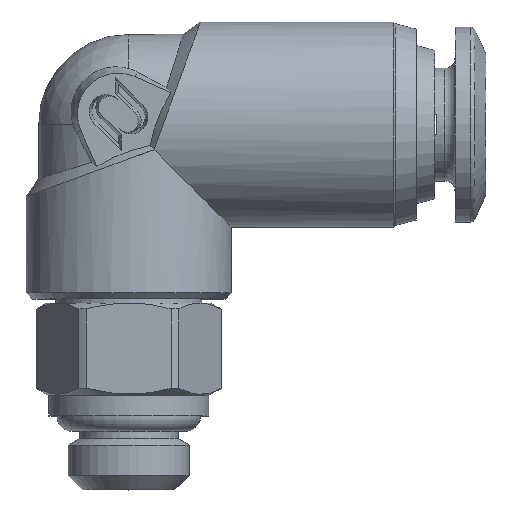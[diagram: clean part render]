
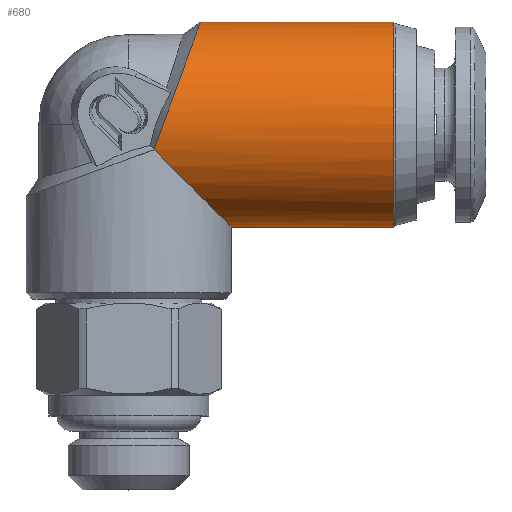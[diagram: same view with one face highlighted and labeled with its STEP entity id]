
A CAD part, top view. The second image highlights one B-rep face of the part: STEP entity #680.
In plain terms, the highlighted cylindrical face has radius 5 mm (diameter 10 mm), a full revolution.
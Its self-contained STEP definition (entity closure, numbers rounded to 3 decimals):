
#26 = VERTEX_POINT ( 'NONE', #3959 ) ;
#79 = CARTESIAN_POINT ( 'NONE',  ( 2.377, 1.913, -4.619 ) ) ;
#95 = CARTESIAN_POINT ( 'NONE',  ( 3.5, 5., 0.654 ) ) ;
#121 = CARTESIAN_POINT ( 'NONE',  ( 1.68, 0., 5. ) ) ;
#127 = CARTESIAN_POINT ( 'NONE',  ( 2.156, 1.309, -4.87 ) ) ;
#283 = DIRECTION ( 'NONE',  ( 0., 1., 0. ) ) ;
#356 = ORIENTED_EDGE ( 'NONE', *, *, #2048, .F. ) ;
#411 = B_SPLINE_CURVE_WITH_KNOTS ( 'NONE', 3,
 ( #3466, #480, #3859, #1601 ),
 .UNSPECIFIED., .F., .F.,
 ( 4, 4 ),
 ( 0., 1. ),
 .UNSPECIFIED. ) ;
#437 = B_SPLINE_CURVE_WITH_KNOTS ( 'NONE', 3,
 ( #4826, #1842, #516, #3138 ),
 .UNSPECIFIED., .F., .F.,
 ( 4, 4 ),
 ( 0., 1. ),
 .UNSPECIFIED. ) ;
#461 = CARTESIAN_POINT ( 'NONE',  ( 3.5, 5., 0. ) ) ;
#480 = CARTESIAN_POINT ( 'NONE',  ( 3.5, 5., -0.654 ) ) ;
#493 = CARTESIAN_POINT ( 'NONE',  ( 1.68, 0., -5. ) ) ;
#516 = CARTESIAN_POINT ( 'NONE',  ( 3.27, 4.369, 2.518 ) ) ;
#526 = VERTEX_POINT ( 'NONE', #1684 ) ;
#534 = CARTESIAN_POINT ( 'NONE',  ( 2.967, 3.536, -3.536 ) ) ;
#536 = CARTESIAN_POINT ( 'NONE',  ( 2.156, 1.309, 4.87 ) ) ;
#558 = CARTESIAN_POINT ( 'NONE',  ( 1.68, 0., -5. ) ) ;
#598 =( BOUNDED_CURVE ( )  B_SPLINE_CURVE ( 3, ( #1449, #1076, #4814, #2593 ),
 .UNSPECIFIED., .F., .F. ) 
 B_SPLINE_CURVE_WITH_KNOTS ( ( 4, 4 ),
 ( 4.463, 4.712 ),
 .UNSPECIFIED. ) 
 CURVE ( )  GEOMETRIC_REPRESENTATION_ITEM ( )  RATIONAL_B_SPLINE_CURVE ( ( 1., 0.995, 0.995, 1. ) ) 
 REPRESENTATION_ITEM ( '' )  );
#628 = CARTESIAN_POINT ( 'NONE',  ( 2.377, 1.913, 4.619 ) ) ;
#680 = ADVANCED_FACE ( 'NONE', ( #704, #1456 ), #2992, .T. ) ;
#704 = FACE_OUTER_BOUND ( 'NONE', #3228, .T. ) ;
#731 = VERTEX_POINT ( 'NONE', #3091 ) ;
#732 = EDGE_CURVE ( 'NONE', #526, #3440, #2053, .T. ) ;
#737 = ORIENTED_EDGE ( 'NONE', *, *, #3907, .F. ) ;
#819 = CARTESIAN_POINT ( 'NONE',  ( 2.967, 3.536, 3.536 ) ) ;
#1003 = CARTESIAN_POINT ( 'NONE',  ( 1.232, -1.232, 4.846 ) ) ;
#1004 = DIRECTION ( 'NONE',  ( 1., 0., 0. ) ) ;
#1051 = CARTESIAN_POINT ( 'NONE',  ( 1.379, -0.829, -4.948 ) ) ;
#1076 = CARTESIAN_POINT ( 'NONE',  ( 1.379, -0.829, 4.948 ) ) ;
#1105 = EDGE_CURVE ( 'NONE', #2974, #4819, #2787, .T. ) ;
#1433 = VERTEX_POINT ( 'NONE', #121 ) ;
#1437 = CARTESIAN_POINT ( 'NONE',  ( 2.377, 1.913, 4.619 ) ) ;
#1449 = CARTESIAN_POINT ( 'NONE',  ( 1.232, -1.232, 4.846 ) ) ;
#1456 = FACE_OUTER_BOUND ( 'NONE', #4003, .T. ) ;
#1470 = CARTESIAN_POINT ( 'NONE',  ( 3.361, 4.619, -1.913 ) ) ;
#1512 = VERTEX_POINT ( 'NONE', #558 ) ;
#1593 = VERTEX_POINT ( 'NONE', #1733 ) ;
#1601 = CARTESIAN_POINT ( 'NONE',  ( 3.361, 4.619, -1.913 ) ) ;
#1642 = ORIENTED_EDGE ( 'NONE', *, *, #4582, .F. ) ;
#1684 = CARTESIAN_POINT ( 'NONE',  ( 3.361, 4.619, 1.913 ) ) ;
#1733 = CARTESIAN_POINT ( 'NONE',  ( 2.967, 3.536, -3.536 ) ) ;
#1743 = CARTESIAN_POINT ( 'NONE',  ( 7.524, -7.524, -3.246 ) ) ;
#1800 = VERTEX_POINT ( 'NONE', #1470 ) ;
#1842 = CARTESIAN_POINT ( 'NONE',  ( 3.135, 3.998, 3.073 ) ) ;
#1890 = ORIENTED_EDGE ( 'NONE', *, *, #1923, .T. ) ;
#1923 = EDGE_CURVE ( 'NONE', #731, #731, #3356, .T. ) ;
#1943 = CARTESIAN_POINT ( 'NONE',  ( 2.967, 3.536, -3.536 ) ) ;
#1945 = CARTESIAN_POINT ( 'NONE',  ( 12.918, 0., 0. ) ) ;
#1961 = CARTESIAN_POINT ( 'NONE',  ( 3.453, 4.87, 1.309 ) ) ;
#2031 = CARTESIAN_POINT ( 'NONE',  ( 3.361, 4.619, -1.913 ) ) ;
#2048 = EDGE_CURVE ( 'NONE', #26, #1512, #4361, .T. ) ;
#2053 = B_SPLINE_CURVE_WITH_KNOTS ( 'NONE', 3,
 ( #4172, #1961, #95, #2719 ),
 .UNSPECIFIED., .F., .F.,
 ( 4, 4 ),
 ( 0., 1. ),
 .UNSPECIFIED. ) ;
#2114 = CARTESIAN_POINT ( 'NONE',  ( 15., 0., 0. ) ) ;
#2323 = CARTESIAN_POINT ( 'NONE',  ( 2.597, 2.518, -4.369 ) ) ;
#2324 = DIRECTION ( 'NONE',  ( 0., -1., 0. ) ) ;
#2517 = EDGE_CURVE ( 'NONE', #4819, #526, #437, .T. ) ;
#2518 = B_SPLINE_CURVE_WITH_KNOTS ( 'NONE', 3,
 ( #4242, #4258, #536, #3156 ),
 .UNSPECIFIED., .F., .F.,
 ( 4, 4 ),
 ( 0., 1. ),
 .UNSPECIFIED. ) ;
#2593 = CARTESIAN_POINT ( 'NONE',  ( 1.68, 0., 5. ) ) ;
#2713 =( BOUNDED_CURVE ( )  B_SPLINE_CURVE ( 3, ( #1003, #3238, #1743, #4362 ),
 .UNSPECIFIED., .F., .F. ) 
 B_SPLINE_CURVE_WITH_KNOTS ( ( 4, 4 ),
 ( 4.961, 7.605 ),
 .UNSPECIFIED. ) 
 CURVE ( )  GEOMETRIC_REPRESENTATION_ITEM ( )  RATIONAL_B_SPLINE_CURVE ( ( 1., 0.498, 0.498, 1. ) ) 
 REPRESENTATION_ITEM ( '' )  );
#2719 = CARTESIAN_POINT ( 'NONE',  ( 3.5, 5., 0. ) ) ;
#2750 = CARTESIAN_POINT ( 'NONE',  ( 1.918, 0.654, -5. ) ) ;
#2785 = ORIENTED_EDGE ( 'NONE', *, *, #4402, .T. ) ;
#2787 = B_SPLINE_CURVE_WITH_KNOTS ( 'NONE', 3,
 ( #1437, #3992, #2945, #4051 ),
 .UNSPECIFIED., .F., .F.,
 ( 4, 4 ),
 ( 0., 1. ),
 .UNSPECIFIED. ) ;
#2795 = CARTESIAN_POINT ( 'NONE',  ( 3.135, 3.998, -3.073 ) ) ;
#2884 = B_SPLINE_CURVE_WITH_KNOTS ( 'NONE', 3,
 ( #1943, #4552, #2323, #79 ),
 .UNSPECIFIED., .F., .F.,
 ( 4, 4 ),
 ( 0., 1. ),
 .UNSPECIFIED. ) ;
#2930 = CARTESIAN_POINT ( 'NONE',  ( 1.68, 0., -5. ) ) ;
#2945 = CARTESIAN_POINT ( 'NONE',  ( 2.799, 3.073, 3.998 ) ) ;
#2974 = VERTEX_POINT ( 'NONE', #628 ) ;
#2988 = ORIENTED_EDGE ( 'NONE', *, *, #3174, .F. ) ;
#2992 = CYLINDRICAL_SURFACE ( 'NONE', #4667, 5. ) ;
#3065 = B_SPLINE_CURVE_WITH_KNOTS ( 'NONE', 3,
 ( #2031, #3881, #2795, #534 ),
 .UNSPECIFIED., .F., .F.,
 ( 4, 4 ),
 ( 0., 1. ),
 .UNSPECIFIED. ) ;
#3085 = AXIS2_PLACEMENT_3D ( 'NONE', #1945, #4554, #2324 ) ;
#3091 = CARTESIAN_POINT ( 'NONE',  ( 12.918, -5., 0. ) ) ;
#3120 = VERTEX_POINT ( 'NONE', #4516 ) ;
#3138 = CARTESIAN_POINT ( 'NONE',  ( 3.361, 4.619, 1.913 ) ) ;
#3156 = CARTESIAN_POINT ( 'NONE',  ( 2.377, 1.913, 4.619 ) ) ;
#3174 = EDGE_CURVE ( 'NONE', #1593, #26, #2884, .T. ) ;
#3202 = ORIENTED_EDGE ( 'NONE', *, *, #2517, .F. ) ;
#3228 = EDGE_LOOP ( 'NONE', ( #1642, #2785, #737, #356, #2988, #3499, #4636, #4677, #3202, #3645, #3725 ) ) ;
#3238 = CARTESIAN_POINT ( 'NONE',  ( 7.524, -7.524, 3.246 ) ) ;
#3291 = VERTEX_POINT ( 'NONE', #3884 ) ;
#3296 = CARTESIAN_POINT ( 'NONE',  ( 1.529, -0.416, -5. ) ) ;
#3319 = EDGE_CURVE ( 'NONE', #1433, #2974, #2518, .T. ) ;
#3356 = CIRCLE ( 'NONE', #3085, 5. ) ;
#3440 = VERTEX_POINT ( 'NONE', #461 ) ;
#3466 = CARTESIAN_POINT ( 'NONE',  ( 3.5, 5., 0. ) ) ;
#3493 = EDGE_CURVE ( 'NONE', #3440, #1800, #411, .T. ) ;
#3499 = ORIENTED_EDGE ( 'NONE', *, *, #4196, .F. ) ;
#3645 = ORIENTED_EDGE ( 'NONE', *, *, #1105, .F. ) ;
#3676 = CARTESIAN_POINT ( 'NONE',  ( 1.232, -1.232, -4.846 ) ) ;
#3725 = ORIENTED_EDGE ( 'NONE', *, *, #3319, .F. ) ;
#3859 = CARTESIAN_POINT ( 'NONE',  ( 3.453, 4.87, -1.309 ) ) ;
#3881 = CARTESIAN_POINT ( 'NONE',  ( 3.27, 4.369, -2.518 ) ) ;
#3884 = CARTESIAN_POINT ( 'NONE',  ( 1.232, -1.232, 4.846 ) ) ;
#3907 = EDGE_CURVE ( 'NONE', #1512, #3120, #4640, .T. ) ;
#3959 = CARTESIAN_POINT ( 'NONE',  ( 2.377, 1.913, -4.619 ) ) ;
#3992 = CARTESIAN_POINT ( 'NONE',  ( 2.597, 2.518, 4.369 ) ) ;
#4003 = EDGE_LOOP ( 'NONE', ( #1890 ) ) ;
#4051 = CARTESIAN_POINT ( 'NONE',  ( 2.967, 3.536, 3.536 ) ) ;
#4172 = CARTESIAN_POINT ( 'NONE',  ( 3.361, 4.619, 1.913 ) ) ;
#4196 = EDGE_CURVE ( 'NONE', #1800, #1593, #3065, .T. ) ;
#4242 = CARTESIAN_POINT ( 'NONE',  ( 1.68, 0., 5. ) ) ;
#4258 = CARTESIAN_POINT ( 'NONE',  ( 1.918, 0.654, 5. ) ) ;
#4361 = B_SPLINE_CURVE_WITH_KNOTS ( 'NONE', 3,
 ( #4594, #127, #2750, #493 ),
 .UNSPECIFIED., .F., .F.,
 ( 4, 4 ),
 ( 0., 1. ),
 .UNSPECIFIED. ) ;
#4362 = CARTESIAN_POINT ( 'NONE',  ( 1.232, -1.232, -4.846 ) ) ;
#4402 = EDGE_CURVE ( 'NONE', #3291, #3120, #2713, .T. ) ;
#4516 = CARTESIAN_POINT ( 'NONE',  ( 1.232, -1.232, -4.846 ) ) ;
#4552 = CARTESIAN_POINT ( 'NONE',  ( 2.799, 3.073, -3.998 ) ) ;
#4554 = DIRECTION ( 'NONE',  ( -1., 0., 0. ) ) ;
#4582 = EDGE_CURVE ( 'NONE', #3291, #1433, #598, .T. ) ;
#4594 = CARTESIAN_POINT ( 'NONE',  ( 2.377, 1.913, -4.619 ) ) ;
#4636 = ORIENTED_EDGE ( 'NONE', *, *, #3493, .F. ) ;
#4640 =( BOUNDED_CURVE ( )  B_SPLINE_CURVE ( 3, ( #2930, #3296, #1051, #3676 ),
 .UNSPECIFIED., .F., .F. ) 
 B_SPLINE_CURVE_WITH_KNOTS ( ( 4, 4 ),
 ( 1.571, 1.82 ),
 .UNSPECIFIED. ) 
 CURVE ( )  GEOMETRIC_REPRESENTATION_ITEM ( )  RATIONAL_B_SPLINE_CURVE ( ( 1., 0.995, 0.995, 1. ) ) 
 REPRESENTATION_ITEM ( '' )  );
#4667 = AXIS2_PLACEMENT_3D ( 'NONE', #2114, #1004, #283 ) ;
#4677 = ORIENTED_EDGE ( 'NONE', *, *, #732, .F. ) ;
#4814 = CARTESIAN_POINT ( 'NONE',  ( 1.529, -0.416, 5. ) ) ;
#4819 = VERTEX_POINT ( 'NONE', #819 ) ;
#4826 = CARTESIAN_POINT ( 'NONE',  ( 2.967, 3.536, 3.536 ) ) ;
